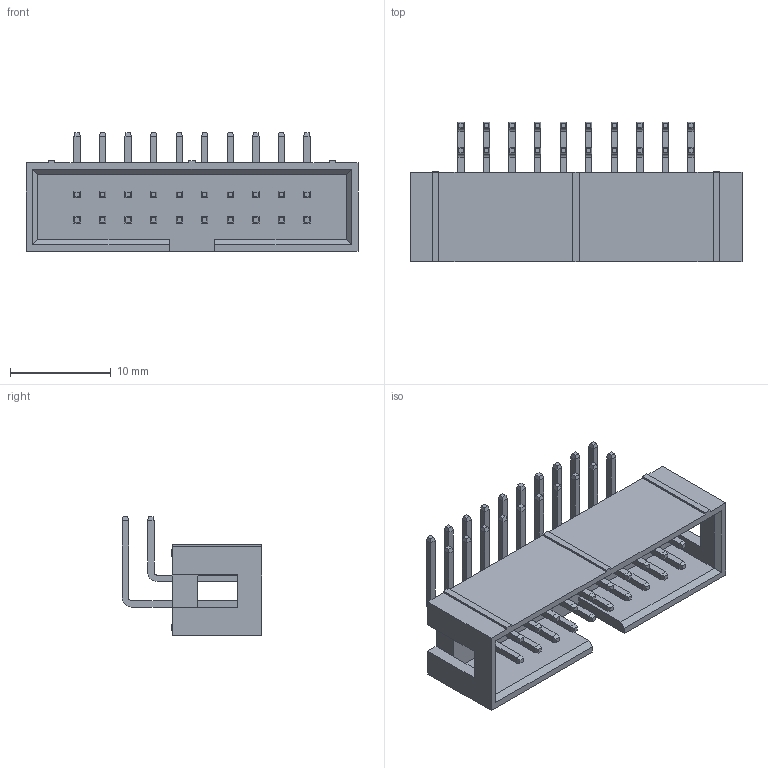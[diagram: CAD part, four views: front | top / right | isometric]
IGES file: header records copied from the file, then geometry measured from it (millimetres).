
Start section:  PTC IGES file: 3020-20-0200-00.igs
Global section: file name: 3020-20-0200-00.igs; native system: Pro/ENGINEER by Parametric Technology Corporation; preprocessor: 2010280; author: eng; organization: Unknown; date: 20150615.084611; units: millimetre
Bounding box: 33.02 x 13.9 x 11.8 mm (x, y, z)
Volume: 1352.3 mm3; surface area: 2542.5 mm2
Topology: 1 solids, 1 shells, 495 faces, 1188 edges, 736 vertices
Faces by surface type: bspline 447, revolution 48
